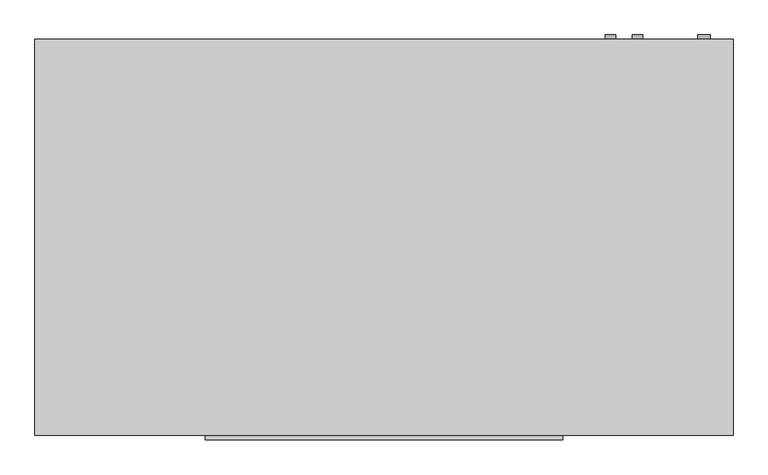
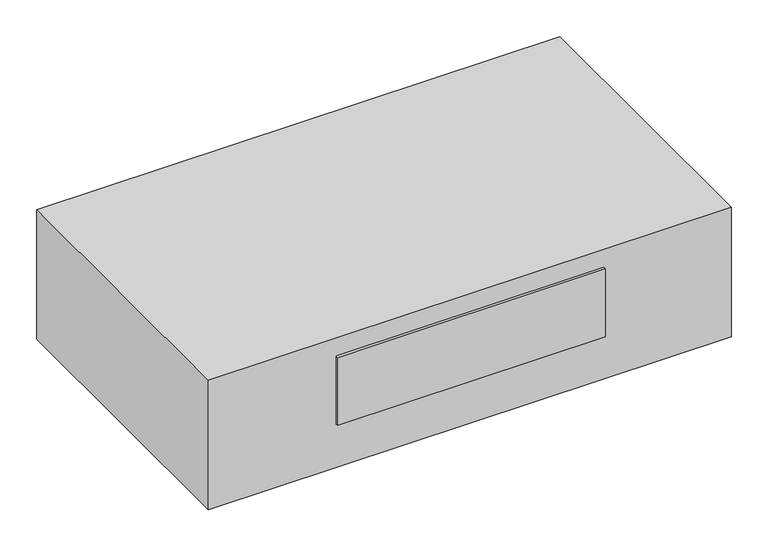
"""IFC4 building model written with IfcOpenShell, lengths in millimetres: proxy geometry, Exposed_Horizontal_Fan_Coil_Unit_-_42CGB_-_CARRIER_-_2-Pipe_Cool-EHeat_FS-BR_RH_2022 : Size 03 - 277v/60Hz/1Ph - 4 Row 3.0kW."""

from ifc_helpers import new_model, si_unit, point, frame, frame_2d, origin, place, context, project, spatial, polyline, circle_curve, trimmed, segment, composite_curve, outline, extrude, source, transform, mapped, element, save


def mechanical_equipment_e465686b(model_context):
    return source(origin(), model_context, "Body", "SweptSolid", [
        extrude(outline(composite_curve([segment(trimmed(circle_curve(frame_2d((-60.325, 498.475)), 7.9375), [point((-60.325, 506.4125))], [point((-60.325, 490.5375))], False, "CARTESIAN"), True, "CONTINUOUS"), segment(trimmed(circle_curve(frame_2d((-60.325, 498.475)), 7.9375), [point((-60.325, 490.5375))], [point((-60.325, 506.4125))], False, "CARTESIAN"), True, "CONTINUOUS")], self_intersect=False)), frame((0.0, 65.0875, 0.0), z_axis=(0.0, 1.0, 0.0), x_axis=(0.0, 0.0, 1.0)), (0.0, 0.0, 1.0), 6.35),
        extrude(outline(composite_curve([segment(trimmed(circle_curve(frame_2d((-95.25, 539.75)), 7.9375), [point((-95.25, 547.6875))], [point((-95.25, 531.8125))], False, "CARTESIAN"), True, "CONTINUOUS"), segment(trimmed(circle_curve(frame_2d((-95.25, 539.75)), 7.9375), [point((-95.25, 531.8125))], [point((-95.25, 547.6875))], False, "CARTESIAN"), True, "CONTINUOUS")], self_intersect=False)), frame((0.0, 65.0875, 0.0), z_axis=(0.0, 1.0, 0.0), x_axis=(0.0, 0.0, 1.0)), (0.0, 0.0, 1.0), 6.35),
        extrude(outline(composite_curve([segment(trimmed(circle_curve(frame_2d((-260.35, 641.35)), 9.525), [point((-260.35, 650.875))], [point((-260.35, 631.825))], False, "CARTESIAN"), True, "CONTINUOUS"), segment(trimmed(circle_curve(frame_2d((-260.35, 641.35)), 9.525), [point((-260.35, 631.825))], [point((-260.35, 650.875))], False, "CARTESIAN"), True, "CONTINUOUS")], self_intersect=False)), frame((0.0, 65.0875, 0.0), z_axis=(0.0, 1.0, 0.0), x_axis=(0.0, 0.0, 1.0)), (0.0, 0.0, 1.0), 6.35),
        extrude(outline(polyline([(-381.0, 65.0875), (685.8, 65.0875), (685.8, -541.3375), (-381.0, -541.3375), (-381.0, 65.0875)])), frame((0.0, 0.0, -279.4), z_axis=(0.0, 0.0, 1.0), x_axis=(1.0, 0.0, 0.0)), (0.0, 0.0, 1.0), 279.4),
        extrude(outline(polyline([(425.45, -547.6875), (-120.65, -547.6875), (-120.65, -541.3375), (425.45, -541.3375), (425.45, -547.6875)])), frame((0.0, 0.0, -184.15), z_axis=(0.0, 0.0, 1.0), x_axis=(1.0, 0.0, 0.0)), (0.0, 0.0, 1.0), 146.05),
        extrude(outline(polyline([(508.0, -11.1125), (508.0, -265.1125), (-203.2, -265.1125), (-203.2, -11.1125), (508.0, -11.1125)])), frame((0.0, 0.0, -285.75), z_axis=(0.0, 0.0, 1.0), x_axis=(1.0, 0.0, 0.0)), (0.0, 0.0, 1.0), 6.35),
    ])


if __name__ == "__main__":
    model = new_model("IFC4")
    model_context = context("Model", 3, world=origin())
    ifc_project = project(units=[si_unit("LENGTHUNIT", "METRE", prefix="MILLI")], contexts=[model_context])
    site = spatial("IfcSite", under=ifc_project)
    building = spatial("IfcBuilding", under=site)
    placement = place(None, origin())
    mechanical_equipment_shape = mechanical_equipment_e465686b(model_context)
    element("IfcBuildingElementProxy", 1, Name="Exposed_Horizontal_Fan_Coil_Unit_-_42CGB_-_CARRIER_-_2-Pipe_Cool-EHeat_FS-BR_RH_2022 : Size 03 - 277v/60Hz/1Ph - 4 Row 3.0kW", ObjectType="Exposed_Horizontal_Fan_Coil_Unit_-_42CGB_-_CARRIER_-_2-Pipe_Cool-EHeat_FS-BR_RH_2022 : Size 03 - 277v/60Hz/1Ph - 4 Row 3.0kW", at=placement, inside=building, context=model_context, shape_type="MappedRepresentation", body=[
        mapped(mechanical_equipment_shape, transform((0.0, 0.0, 0.0), x_axis=(1.0, 0.0, 0.0), y_axis=(0.0, 1.0, 0.0), z_axis=(0.0, 0.0, 1.0))),
    ])
    save(model, "model.ifc")
